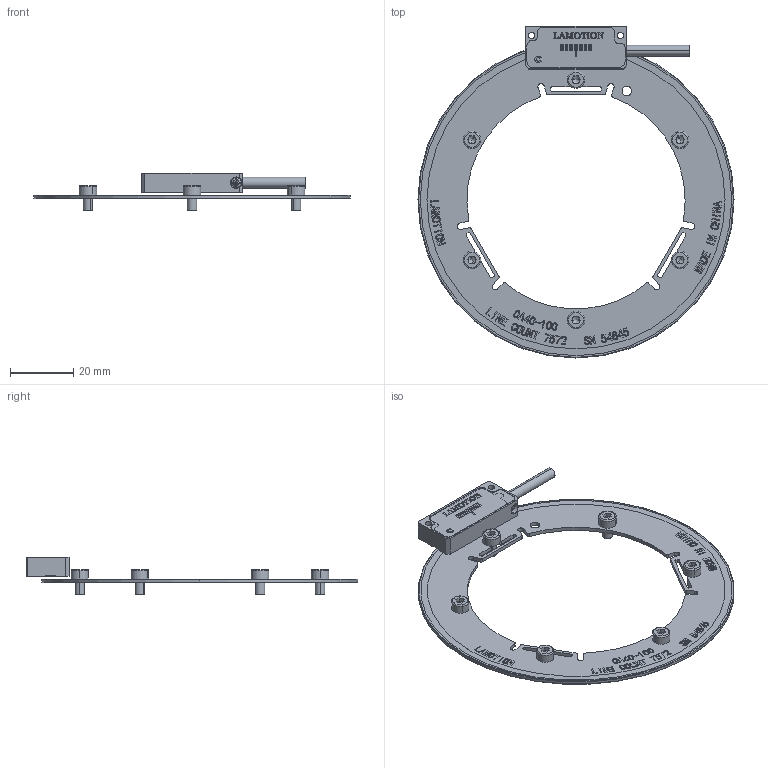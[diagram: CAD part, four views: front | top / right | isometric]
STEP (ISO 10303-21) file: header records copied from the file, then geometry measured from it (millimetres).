
FILE_DESCRIPTION (( 'STEP AP203' ), '1' );
FILE_NAME ('陔COIN+鎢攫蚾饜极 d100.STEP', '2024-08-22T01:24:21', ( '' ), ( '' ), 'SwSTEP 2.0', 'SolidWorks 2024', '' );
FILE_SCHEMA (( 'CONFIG_CONTROL_DESIGN' ));
Length unit declared in the file: millimetre
Products named in the file (8): COIN线缆; hexagon socket head cap screws gb_GB_FASTENER_SCREWS_HSHCS M3X5-N; LM018-001-01 B 紧凑壳体; COIN  装配体 202405W; 十字槽盘头螺钉 M2-2; 新COIN+码盘装配体 d100; CA100X66.5; LM018-002-01  打标
Assembly tree (12 placements, depth 3):
  新COIN+码盘装配体 d100
    CA100X66.5
    COIN  装配体 202405W
      LM018-002-01  打标
      十字槽盘头螺钉 M2-2
      LM018-001-01 B 紧凑壳体
      COIN线缆
    hexagon socket head cap screws gb_GB_FASTENER_SCREWS_HSHCS M3X5-N  x6
Bounding box: 100 x 105 x 11.9 mm (x, y, z)
Volume: 6500.8 mm3; surface area: 12759.9 mm2
Topology: 11 solids, 11 shells, 1208 faces, 3176 edges, 2080 vertices
Faces by surface type: plane 807, cylinder 183, bspline 168, cone 32, torus 18
Entity records: 46647 total; most frequent: CARTESIAN_POINT 19473, ORIENTED_EDGE 5780, DIRECTION 4714, EDGE_CURVE 2890, VECTOR 2166, LINE 2166, VERTEX_POINT 1915, AXIS2_PLACEMENT_3D 1274
